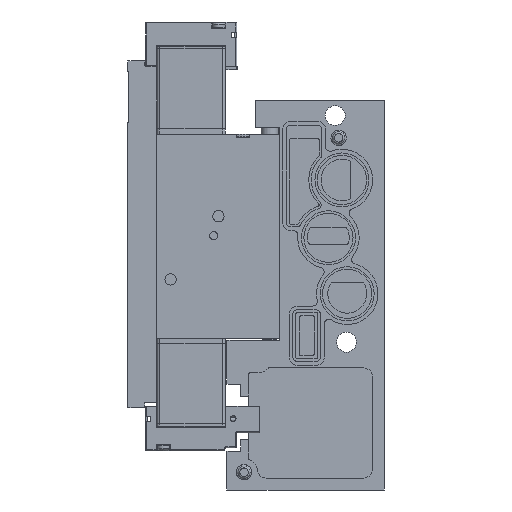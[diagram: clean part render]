
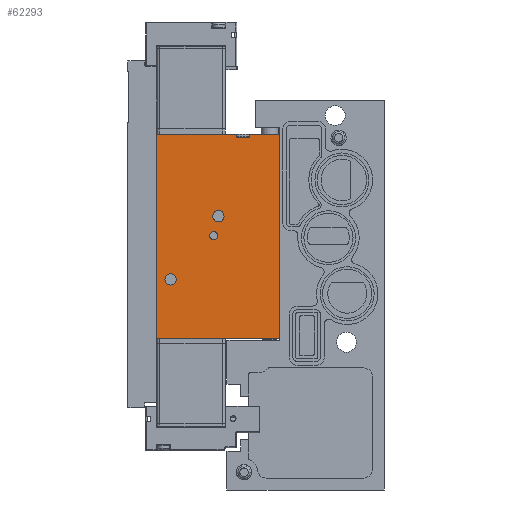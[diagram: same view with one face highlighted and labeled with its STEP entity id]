
A CAD part, left-side view. The second image highlights one B-rep face of the part: STEP entity #62293.
In plain terms, the highlighted planar face has unit normal (-1, 0, 0) as drawn and (0, 0, 1) by its records, which use the part's own axes.
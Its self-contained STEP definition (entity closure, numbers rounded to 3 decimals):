
#213 = ORIENTED_EDGE ( 'NONE', *, *, #50765, .T. ) ;
#278 = EDGE_LOOP ( 'NONE', ( #67116 ) ) ;
#2035 = CARTESIAN_POINT ( 'NONE',  ( 0.5, 36., 10. ) ) ;
#3199 = VERTEX_POINT ( 'NONE', #33312 ) ;
#3891 = VERTEX_POINT ( 'NONE', #68232 ) ;
#3955 = ORIENTED_EDGE ( 'NONE', *, *, #12279, .F. ) ;
#5624 = DIRECTION ( 'NONE',  ( 0., -1., 0. ) ) ;
#6103 = ORIENTED_EDGE ( 'NONE', *, *, #7605, .F. ) ;
#6565 = VERTEX_POINT ( 'NONE', #75954 ) ;
#7605 = EDGE_CURVE ( 'NONE', #47796, #47796, #23215, .T. ) ;
#7998 = ORIENTED_EDGE ( 'NONE', *, *, #72772, .F. ) ;
#8637 = LINE ( 'NONE', #23527, #24461 ) ;
#8993 = VERTEX_POINT ( 'NONE', #35178 ) ;
#9457 = AXIS2_PLACEMENT_3D ( 'NONE', #34416, #75342, #40292 ) ;
#10675 = PLANE ( 'NONE',  #9457 ) ;
#11174 = EDGE_CURVE ( 'NONE', #60883, #51312, #57972, .T. ) ;
#12279 = EDGE_CURVE ( 'NONE', #27008, #34286, #16200, .T. ) ;
#12935 = FACE_OUTER_BOUND ( 'NONE', #47593, .T. ) ;
#12990 = VECTOR ( 'NONE', #58012, 1000. ) ;
#14396 = LINE ( 'NONE', #27818, #59522 ) ;
#14920 = ORIENTED_EDGE ( 'NONE', *, *, #67163, .F. ) ;
#16200 = LINE ( 'NONE', #34332, #22268 ) ;
#19486 = ORIENTED_EDGE ( 'NONE', *, *, #25955, .F. ) ;
#22268 = VECTOR ( 'NONE', #34315, 1000. ) ;
#22723 = ORIENTED_EDGE ( 'NONE', *, *, #11174, .T. ) ;
#23215 = CIRCLE ( 'NONE', #52445, 1.65 ) ;
#23527 = CARTESIAN_POINT ( 'NONE',  ( 60.35, 0., 10. ) ) ;
#24461 = VECTOR ( 'NONE', #5624, 1000. ) ;
#25955 = EDGE_CURVE ( 'NONE', #60883, #42181, #14396, .T. ) ;
#26598 = VERTEX_POINT ( 'NONE', #71715 ) ;
#27008 = VERTEX_POINT ( 'NONE', #74467 ) ;
#27311 = LINE ( 'NONE', #52817, #41049 ) ;
#27750 = DIRECTION ( 'NONE',  ( 0., 1., 0. ) ) ;
#27818 = CARTESIAN_POINT ( 'NONE',  ( 0.5, 36., 10. ) ) ;
#28204 = LINE ( 'NONE', #38495, #28345 ) ;
#28345 = VECTOR ( 'NONE', #41796, 1000. ) ;
#28958 = ORIENTED_EDGE ( 'NONE', *, *, #41071, .T. ) ;
#29636 = CARTESIAN_POINT ( 'NONE',  ( 30.6, 19.4, 10. ) ) ;
#30515 = CARTESIAN_POINT ( 'NONE',  ( 60.35, 0., 10. ) ) ;
#33312 = CARTESIAN_POINT ( 'NONE',  ( 59.35, 12.65, 10. ) ) ;
#34286 = VERTEX_POINT ( 'NONE', #71726 ) ;
#34315 = DIRECTION ( 'NONE',  ( 0., -1., 0. ) ) ;
#34332 = CARTESIAN_POINT ( 'NONE',  ( 60.35, 0., 10. ) ) ;
#34416 = CARTESIAN_POINT ( 'NONE',  ( 0., 0., 10. ) ) ;
#35178 = CARTESIAN_POINT ( 'NONE',  ( 19.45, 32., 10. ) ) ;
#35526 = DIRECTION ( 'NONE',  ( 1., 0., 0. ) ) ;
#36460 = EDGE_CURVE ( 'NONE', #8993, #8993, #42571, .T. ) ;
#38452 = DIRECTION ( 'NONE',  ( 1., 0., 0. ) ) ;
#38495 = CARTESIAN_POINT ( 'NONE',  ( 0., 8.85, 10. ) ) ;
#38697 = DIRECTION ( 'NONE',  ( 0., 0., 1. ) ) ;
#38791 = CARTESIAN_POINT ( 'NONE',  ( 36.3, 18., 10. ) ) ;
#40210 = CIRCLE ( 'NONE', #54478, 1.19 ) ;
#40292 = DIRECTION ( 'NONE',  ( -1., 0., 0. ) ) ;
#41049 = VECTOR ( 'NONE', #52559, 1000. ) ;
#41071 = EDGE_CURVE ( 'NONE', #27008, #42181, #63311, .T. ) ;
#41796 = DIRECTION ( 'NONE',  ( 1., 0., 0. ) ) ;
#42181 = VERTEX_POINT ( 'NONE', #2035 ) ;
#42571 = CIRCLE ( 'NONE', #62653, 1.65 ) ;
#42648 = EDGE_LOOP ( 'NONE', ( #6103 ) ) ;
#44067 = DIRECTION ( 'NONE',  ( -1., 0., 0. ) ) ;
#44291 = FACE_BOUND ( 'NONE', #42648, .T. ) ;
#44574 = CARTESIAN_POINT ( 'NONE',  ( 0., 36., 10. ) ) ;
#46270 = EDGE_CURVE ( 'NONE', #3891, #6565, #28204, .T. ) ;
#47593 = EDGE_LOOP ( 'NONE', ( #14920, #3955, #28958, #19486, #22723, #7998, #53258, #213 ) ) ;
#47796 = VERTEX_POINT ( 'NONE', #68190 ) ;
#48058 = VECTOR ( 'NONE', #64895, 1000. ) ;
#48751 = CARTESIAN_POINT ( 'NONE',  ( 0.5, 0., 10. ) ) ;
#50765 = EDGE_CURVE ( 'NONE', #3891, #3199, #27311, .T. ) ;
#51312 = VERTEX_POINT ( 'NONE', #30515 ) ;
#52445 = AXIS2_PLACEMENT_3D ( 'NONE', #38791, #38697, #38452 ) ;
#52559 = DIRECTION ( 'NONE',  ( 0., 1., 0. ) ) ;
#52817 = CARTESIAN_POINT ( 'NONE',  ( 59.35, 15.8, 10. ) ) ;
#53258 = ORIENTED_EDGE ( 'NONE', *, *, #46270, .F. ) ;
#53488 = EDGE_LOOP ( 'NONE', ( #56903 ) ) ;
#54478 = AXIS2_PLACEMENT_3D ( 'NONE', #29636, #70537, #35526 ) ;
#56903 = ORIENTED_EDGE ( 'NONE', *, *, #36460, .F. ) ;
#57972 = LINE ( 'NONE', #58215, #48058 ) ;
#58012 = DIRECTION ( 'NONE',  ( -1., 0., 0. ) ) ;
#58100 = FACE_BOUND ( 'NONE', #53488, .T. ) ;
#58215 = CARTESIAN_POINT ( 'NONE',  ( 0., 0., 10. ) ) ;
#58271 = EDGE_CURVE ( 'NONE', #26598, #26598, #40210, .T. ) ;
#59522 = VECTOR ( 'NONE', #27750, 1000. ) ;
#59938 = LINE ( 'NONE', #69913, #12990 ) ;
#60883 = VERTEX_POINT ( 'NONE', #48751 ) ;
#62293 = ADVANCED_FACE ( 'NONE', ( #58100, #44291, #12935, #75376 ), #10675, .F. ) ;
#62653 = AXIS2_PLACEMENT_3D ( 'NONE', #71273, #71207, #71109 ) ;
#63233 = VECTOR ( 'NONE', #44067, 1000. ) ;
#63311 = LINE ( 'NONE', #44574, #63233 ) ;
#64895 = DIRECTION ( 'NONE',  ( 1., 0., 0. ) ) ;
#67116 = ORIENTED_EDGE ( 'NONE', *, *, #58271, .F. ) ;
#67163 = EDGE_CURVE ( 'NONE', #34286, #3199, #59938, .T. ) ;
#68190 = CARTESIAN_POINT ( 'NONE',  ( 37.95, 18., 10. ) ) ;
#68232 = CARTESIAN_POINT ( 'NONE',  ( 59.35, 8.85, 10. ) ) ;
#69913 = CARTESIAN_POINT ( 'NONE',  ( 0., 12.65, 10. ) ) ;
#70537 = DIRECTION ( 'NONE',  ( 0., 0., 1. ) ) ;
#71109 = DIRECTION ( 'NONE',  ( 1., 0., 0. ) ) ;
#71207 = DIRECTION ( 'NONE',  ( 0., 0., 1. ) ) ;
#71273 = CARTESIAN_POINT ( 'NONE',  ( 17.8, 32., 10. ) ) ;
#71715 = CARTESIAN_POINT ( 'NONE',  ( 31.79, 19.4, 10. ) ) ;
#71726 = CARTESIAN_POINT ( 'NONE',  ( 60.35, 12.65, 10. ) ) ;
#72772 = EDGE_CURVE ( 'NONE', #6565, #51312, #8637, .T. ) ;
#74467 = CARTESIAN_POINT ( 'NONE',  ( 60.35, 36., 10. ) ) ;
#75342 = DIRECTION ( 'NONE',  ( 0., 0., -1. ) ) ;
#75376 = FACE_BOUND ( 'NONE', #278, .T. ) ;
#75954 = CARTESIAN_POINT ( 'NONE',  ( 60.35, 8.85, 10. ) ) ;
